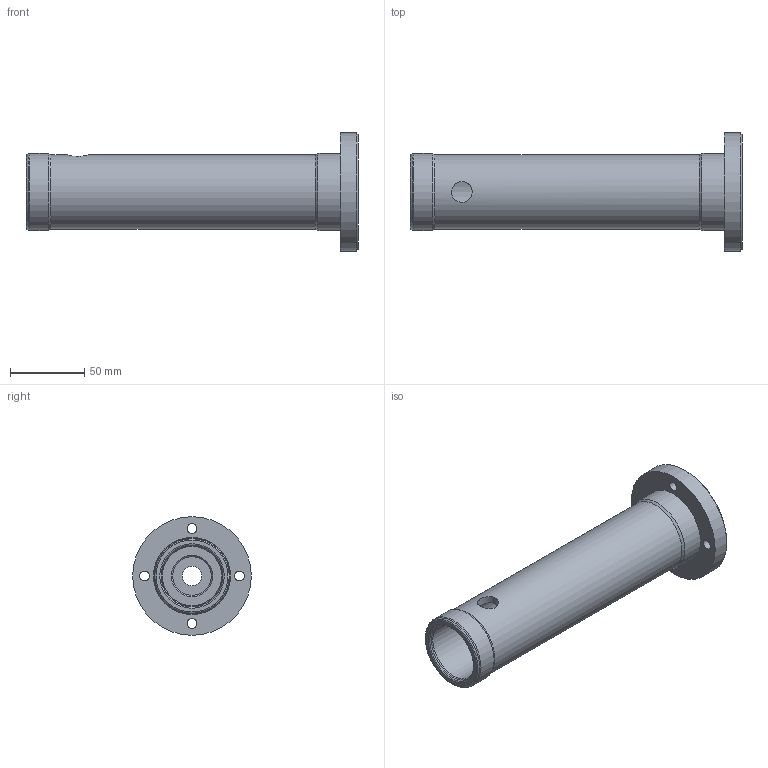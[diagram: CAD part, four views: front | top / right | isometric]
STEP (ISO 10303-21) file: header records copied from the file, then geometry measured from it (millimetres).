
FILE_DESCRIPTION(/* description */ (''),/* implementation_level */ '2;1');
FILE_NAME(/* name */ '',/* time_stamp */ '2024-08-29T13:13:16+09:00',/* author */ ('jhkim'),/* organization */ (''),/* preprocessor_version */ 'ST-DEVELOPER v20',/* originating_system */ 'Autodesk Inventor 2025',/* authorisation */ '');
FILE_SCHEMA (('AUTOMOTIVE_DESIGN { 1 0 10303 214 3 1 1 }'));
Length unit declared in the file: millimetre
Products named in the file (1): 부시
Bounding box: 224 x 80 x 80 mm (x, y, z)
Volume: 210385.6 mm3; surface area: 74035.7 mm2
Topology: 1 solids, 1 shells, 40 faces, 82 edges, 53 vertices
Faces by surface type: cylinder 18, plane 11, cone 7, torus 4
Full cylindrical faces by diameter (mm): 6.6 x4, 11 x4, 13 x1, 14 x1, 26 x2, 27 x1, 40 x1, 50 x1, 52 x2, 80 x1
Entity records: 1206 total; most frequent: CARTESIAN_POINT 244, DIRECTION 213, ORIENTED_EDGE 164, AXIS2_PLACEMENT_3D 94, EDGE_CURVE 82, EDGE_LOOP 61, CIRCLE 53, VERTEX_POINT 53
